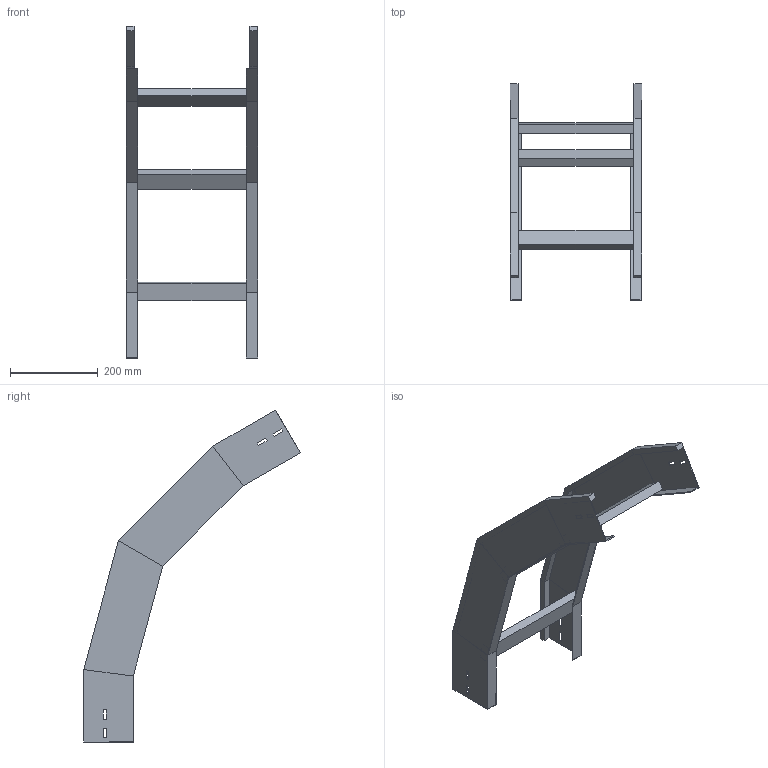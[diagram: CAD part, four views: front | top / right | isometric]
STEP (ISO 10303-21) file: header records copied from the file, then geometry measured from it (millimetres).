
FILE_DESCRIPTION (( 'STEP AP214' ), '1' );
FILE_NAME ('41B5J300.step', '2025-02-21T14:57:42', ( '' ), ( '' ), 'SwSTEP 2.0', 'SolidWorks 2023', '' );
FILE_SCHEMA (( 'AUTOMOTIVE_DESIGN' ));
Length unit declared in the file: millimetre
Products named in the file (3): TRAVERSINO_300; 41B5J300; LONGH.DISCESA_60°_H112.5_R500
Assembly tree (5 placements, depth 2):
  41B5J300
    LONGH.DISCESA_60°_H112.5_R500  x2
    TRAVERSINO_300  x3
Bounding box: 300 x 492.58 x 755.74 mm (x, y, z)
Volume: 1551281.3 mm3; surface area: 656157.2 mm2
Topology: 5 solids, 5 shells, 118 faces, 276 edges, 168 vertices
Faces by surface type: plane 118
Entity records: 1672 total; most frequent: CARTESIAN_POINT 276, ORIENTED_EDGE 264, DIRECTION 260, LINE 132, EDGE_CURVE 132, VECTOR 132, VERTEX_POINT 80, AXIS2_PLACEMENT_3D 64
